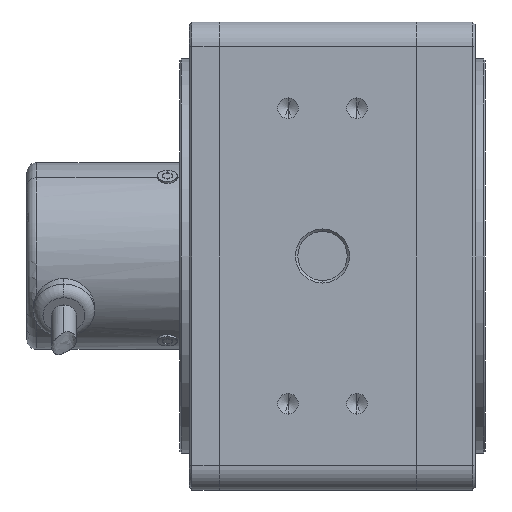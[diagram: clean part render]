
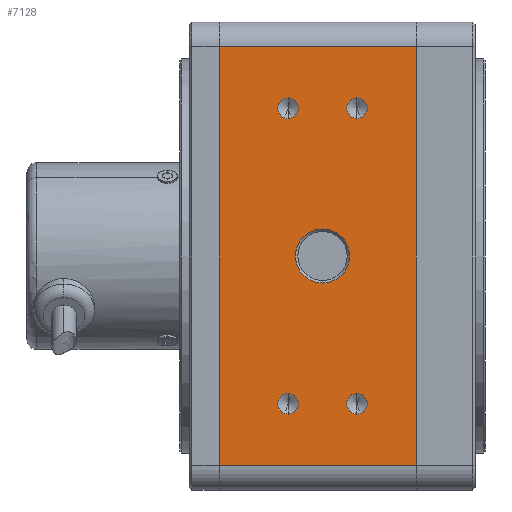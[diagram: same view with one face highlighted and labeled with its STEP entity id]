
A CAD part, left-side view. The second image highlights one B-rep face of the part: STEP entity #7128.
In plain terms, the highlighted planar face has unit normal (-1, 0, 0).
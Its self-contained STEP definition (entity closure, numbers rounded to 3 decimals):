
#53 = DIRECTION ( 'NONE',  ( 0., 0., 1. ) ) ;
#71 = AXIS2_PLACEMENT_3D ( 'NONE', #3607, #787, #3685 ) ;
#121 = AXIS2_PLACEMENT_3D ( 'NONE', #6213, #6876, #2253 ) ;
#153 = DIRECTION ( 'NONE',  ( 0., 0., 1. ) ) ;
#200 = EDGE_LOOP ( 'NONE', ( #1930, #6297 ) ) ;
#259 = DIRECTION ( 'NONE',  ( -1., 0., 0. ) ) ;
#271 = CARTESIAN_POINT ( 'NONE',  ( -47.5, 9., -32.1 ) ) ;
#346 = DIRECTION ( 'NONE',  ( 1., 0., 0. ) ) ;
#388 = CIRCLE ( 'NONE', #502, 2.1 ) ;
#502 = AXIS2_PLACEMENT_3D ( 'NONE', #3323, #3907, #1600 ) ;
#553 = LINE ( 'NONE', #4335, #4974 ) ;
#627 = EDGE_CURVE ( 'NONE', #7404, #1540, #388, .T. ) ;
#638 = EDGE_CURVE ( 'NONE', #1023, #1401, #3910, .T. ) ;
#727 = PLANE ( 'NONE',  #71 ) ;
#734 = CARTESIAN_POINT ( 'NONE',  ( -47.5, 9., -30. ) ) ;
#771 = CIRCLE ( 'NONE', #5323, 5.5 ) ;
#787 = DIRECTION ( 'NONE',  ( 1., 0., 0. ) ) ;
#842 = VECTOR ( 'NONE', #2179, 1000. ) ;
#874 = ORIENTED_EDGE ( 'NONE', *, *, #627, .F. ) ;
#1008 = FACE_BOUND ( 'NONE', #2064, .T. ) ;
#1022 = CIRCLE ( 'NONE', #121, 2.1 ) ;
#1023 = VERTEX_POINT ( 'NONE', #3149 ) ;
#1028 = VERTEX_POINT ( 'NONE', #271 ) ;
#1074 = DIRECTION ( 'NONE',  ( 1., 0., 0. ) ) ;
#1213 = DIRECTION ( 'NONE',  ( 0., 0., 1. ) ) ;
#1263 = EDGE_CURVE ( 'NONE', #1023, #7435, #553, .T. ) ;
#1347 = CIRCLE ( 'NONE', #1389, 2.1 ) ;
#1389 = AXIS2_PLACEMENT_3D ( 'NONE', #6959, #4671, #1213 ) ;
#1401 = VERTEX_POINT ( 'NONE', #5483 ) ;
#1452 = DIRECTION ( 'NONE',  ( 0., 0., 1. ) ) ;
#1482 = ORIENTED_EDGE ( 'NONE', *, *, #6101, .F. ) ;
#1538 = CIRCLE ( 'NONE', #6829, 2.1 ) ;
#1540 = VERTEX_POINT ( 'NONE', #2792 ) ;
#1594 = EDGE_CURVE ( 'NONE', #7308, #5707, #6594, .T. ) ;
#1600 = DIRECTION ( 'NONE',  ( 0., 0., 1. ) ) ;
#1878 = EDGE_CURVE ( 'NONE', #1028, #4178, #1538, .T. ) ;
#1930 = ORIENTED_EDGE ( 'NONE', *, *, #2672, .F. ) ;
#1975 = CARTESIAN_POINT ( 'NONE',  ( -47.5, -5., -30. ) ) ;
#2030 = CARTESIAN_POINT ( 'NONE',  ( -47.5, 2., 0. ) ) ;
#2064 = EDGE_LOOP ( 'NONE', ( #1482, #5685 ) ) ;
#2102 = FACE_OUTER_BOUND ( 'NONE', #4734, .T. ) ;
#2179 = DIRECTION ( 'NONE',  ( 0., 0., 1. ) ) ;
#2193 = VECTOR ( 'NONE', #2489, 1000. ) ;
#2233 = DIRECTION ( 'NONE',  ( 0., 0., -1. ) ) ;
#2253 = DIRECTION ( 'NONE',  ( 0., 0., 1. ) ) ;
#2343 = VERTEX_POINT ( 'NONE', #6623 ) ;
#2475 = LINE ( 'NONE', #7016, #2193 ) ;
#2489 = DIRECTION ( 'NONE',  ( 0., 1., 0. ) ) ;
#2501 = DIRECTION ( 'NONE',  ( 0., 0., 1. ) ) ;
#2521 = CIRCLE ( 'NONE', #2834, 2.1 ) ;
#2647 = AXIS2_PLACEMENT_3D ( 'NONE', #4851, #6467, #153 ) ;
#2672 = EDGE_CURVE ( 'NONE', #5470, #2343, #2521, .T. ) ;
#2727 = EDGE_CURVE ( 'NONE', #1540, #7404, #1347, .T. ) ;
#2792 = CARTESIAN_POINT ( 'NONE',  ( -47.5, -5., 32.1 ) ) ;
#2794 = ORIENTED_EDGE ( 'NONE', *, *, #1594, .T. ) ;
#2815 = LINE ( 'NONE', #6900, #4265 ) ;
#2834 = AXIS2_PLACEMENT_3D ( 'NONE', #5966, #5937, #2501 ) ;
#2876 = CARTESIAN_POINT ( 'NONE',  ( -47.5, 9., 30. ) ) ;
#3149 = CARTESIAN_POINT ( 'NONE',  ( -47.5, 23., -42.5 ) ) ;
#3267 = CIRCLE ( 'NONE', #7416, 2.1 ) ;
#3323 = CARTESIAN_POINT ( 'NONE',  ( -47.5, -5., 30. ) ) ;
#3395 = ORIENTED_EDGE ( 'NONE', *, *, #7097, .F. ) ;
#3519 = ORIENTED_EDGE ( 'NONE', *, *, #1263, .T. ) ;
#3607 = CARTESIAN_POINT ( 'NONE',  ( -47.5, 29., 47.5 ) ) ;
#3619 = ORIENTED_EDGE ( 'NONE', *, *, #638, .F. ) ;
#3643 = FACE_BOUND ( 'NONE', #5930, .T. ) ;
#3675 = EDGE_LOOP ( 'NONE', ( #3395, #7443 ) ) ;
#3685 = DIRECTION ( 'NONE',  ( 0., 0., -1. ) ) ;
#3690 = DIRECTION ( 'NONE',  ( 0., 0., 1. ) ) ;
#3768 = VERTEX_POINT ( 'NONE', #6827 ) ;
#3834 = EDGE_LOOP ( 'NONE', ( #4425, #874 ) ) ;
#3846 = DIRECTION ( 'NONE',  ( 0., -1., 0. ) ) ;
#3856 = CIRCLE ( 'NONE', #5368, 2.1 ) ;
#3907 = DIRECTION ( 'NONE',  ( -1., 0., 0. ) ) ;
#3910 = LINE ( 'NONE', #7356, #842 ) ;
#3974 = EDGE_CURVE ( 'NONE', #6947, #1401, #2475, .T. ) ;
#3999 = ORIENTED_EDGE ( 'NONE', *, *, #3974, .T. ) ;
#4178 = VERTEX_POINT ( 'NONE', #5394 ) ;
#4265 = VECTOR ( 'NONE', #7474, 1000. ) ;
#4335 = CARTESIAN_POINT ( 'NONE',  ( -47.5, 29., -42.5 ) ) ;
#4358 = FACE_BOUND ( 'NONE', #200, .T. ) ;
#4401 = EDGE_CURVE ( 'NONE', #5894, #3768, #3856, .T. ) ;
#4421 = DIRECTION ( 'NONE',  ( 0., 0., -1. ) ) ;
#4425 = ORIENTED_EDGE ( 'NONE', *, *, #2727, .F. ) ;
#4496 = CARTESIAN_POINT ( 'NONE',  ( -47.5, 2., 5.5 ) ) ;
#4671 = DIRECTION ( 'NONE',  ( -1., 0., 0. ) ) ;
#4734 = EDGE_LOOP ( 'NONE', ( #7458, #3999, #3619, #3519 ) ) ;
#4851 = CARTESIAN_POINT ( 'NONE',  ( -47.5, 9., 30. ) ) ;
#4974 = VECTOR ( 'NONE', #3846, 1000. ) ;
#5028 = CARTESIAN_POINT ( 'NONE',  ( -47.5, 2., -5.5 ) ) ;
#5156 = FACE_BOUND ( 'NONE', #3834, .T. ) ;
#5243 = FACE_BOUND ( 'NONE', #3675, .T. ) ;
#5261 = CARTESIAN_POINT ( 'NONE',  ( -47.5, -17., 42.5 ) ) ;
#5323 = AXIS2_PLACEMENT_3D ( 'NONE', #2030, #346, #4421 ) ;
#5368 = AXIS2_PLACEMENT_3D ( 'NONE', #2876, #6908, #53 ) ;
#5394 = CARTESIAN_POINT ( 'NONE',  ( -47.5, 9., -27.9 ) ) ;
#5470 = VERTEX_POINT ( 'NONE', #6010 ) ;
#5483 = CARTESIAN_POINT ( 'NONE',  ( -47.5, 23., 42.5 ) ) ;
#5591 = EDGE_CURVE ( 'NONE', #5707, #7308, #771, .T. ) ;
#5600 = CARTESIAN_POINT ( 'NONE',  ( -47.5, -17., -42.5 ) ) ;
#5685 = ORIENTED_EDGE ( 'NONE', *, *, #1878, .F. ) ;
#5707 = VERTEX_POINT ( 'NONE', #5028 ) ;
#5894 = VERTEX_POINT ( 'NONE', #7214 ) ;
#5930 = EDGE_LOOP ( 'NONE', ( #2794, #7200 ) ) ;
#5937 = DIRECTION ( 'NONE',  ( -1., 0., 0. ) ) ;
#5966 = CARTESIAN_POINT ( 'NONE',  ( -47.5, -5., -30. ) ) ;
#6010 = CARTESIAN_POINT ( 'NONE',  ( -47.5, -5., -27.9 ) ) ;
#6101 = EDGE_CURVE ( 'NONE', #4178, #1028, #1022, .T. ) ;
#6153 = CIRCLE ( 'NONE', #2647, 2.1 ) ;
#6213 = CARTESIAN_POINT ( 'NONE',  ( -47.5, 9., -30. ) ) ;
#6291 = CARTESIAN_POINT ( 'NONE',  ( -47.5, 2., 0. ) ) ;
#6297 = ORIENTED_EDGE ( 'NONE', *, *, #7257, .F. ) ;
#6467 = DIRECTION ( 'NONE',  ( -1., 0., 0. ) ) ;
#6594 = CIRCLE ( 'NONE', #7371, 5.5 ) ;
#6623 = CARTESIAN_POINT ( 'NONE',  ( -47.5, -5., -32.1 ) ) ;
#6740 = CARTESIAN_POINT ( 'NONE',  ( -47.5, -5., 27.9 ) ) ;
#6827 = CARTESIAN_POINT ( 'NONE',  ( -47.5, 9., 32.1 ) ) ;
#6829 = AXIS2_PLACEMENT_3D ( 'NONE', #734, #259, #3690 ) ;
#6876 = DIRECTION ( 'NONE',  ( -1., 0., 0. ) ) ;
#6900 = CARTESIAN_POINT ( 'NONE',  ( -47.5, -17., 47.5 ) ) ;
#6908 = DIRECTION ( 'NONE',  ( -1., 0., 0. ) ) ;
#6947 = VERTEX_POINT ( 'NONE', #5261 ) ;
#6951 = EDGE_CURVE ( 'NONE', #7435, #6947, #2815, .T. ) ;
#6959 = CARTESIAN_POINT ( 'NONE',  ( -47.5, -5., 30. ) ) ;
#7016 = CARTESIAN_POINT ( 'NONE',  ( -47.5, 29., 42.5 ) ) ;
#7097 = EDGE_CURVE ( 'NONE', #3768, #5894, #6153, .T. ) ;
#7128 = ADVANCED_FACE ( 'NONE', ( #3643, #1008, #5243, #5156, #4358, #2102 ), #727, .F. ) ;
#7200 = ORIENTED_EDGE ( 'NONE', *, *, #5591, .T. ) ;
#7214 = CARTESIAN_POINT ( 'NONE',  ( -47.5, 9., 27.9 ) ) ;
#7228 = DIRECTION ( 'NONE',  ( -1., 0., 0. ) ) ;
#7257 = EDGE_CURVE ( 'NONE', #2343, #5470, #3267, .T. ) ;
#7308 = VERTEX_POINT ( 'NONE', #4496 ) ;
#7356 = CARTESIAN_POINT ( 'NONE',  ( -47.5, 23., 47.5 ) ) ;
#7371 = AXIS2_PLACEMENT_3D ( 'NONE', #6291, #1074, #2233 ) ;
#7404 = VERTEX_POINT ( 'NONE', #6740 ) ;
#7416 = AXIS2_PLACEMENT_3D ( 'NONE', #1975, #7228, #1452 ) ;
#7435 = VERTEX_POINT ( 'NONE', #5600 ) ;
#7443 = ORIENTED_EDGE ( 'NONE', *, *, #4401, .F. ) ;
#7458 = ORIENTED_EDGE ( 'NONE', *, *, #6951, .T. ) ;
#7474 = DIRECTION ( 'NONE',  ( 0., 0., 1. ) ) ;
